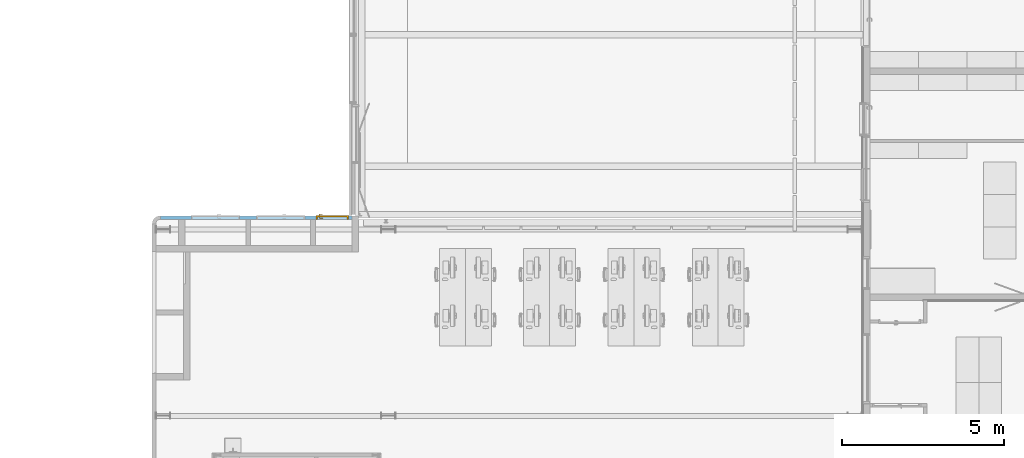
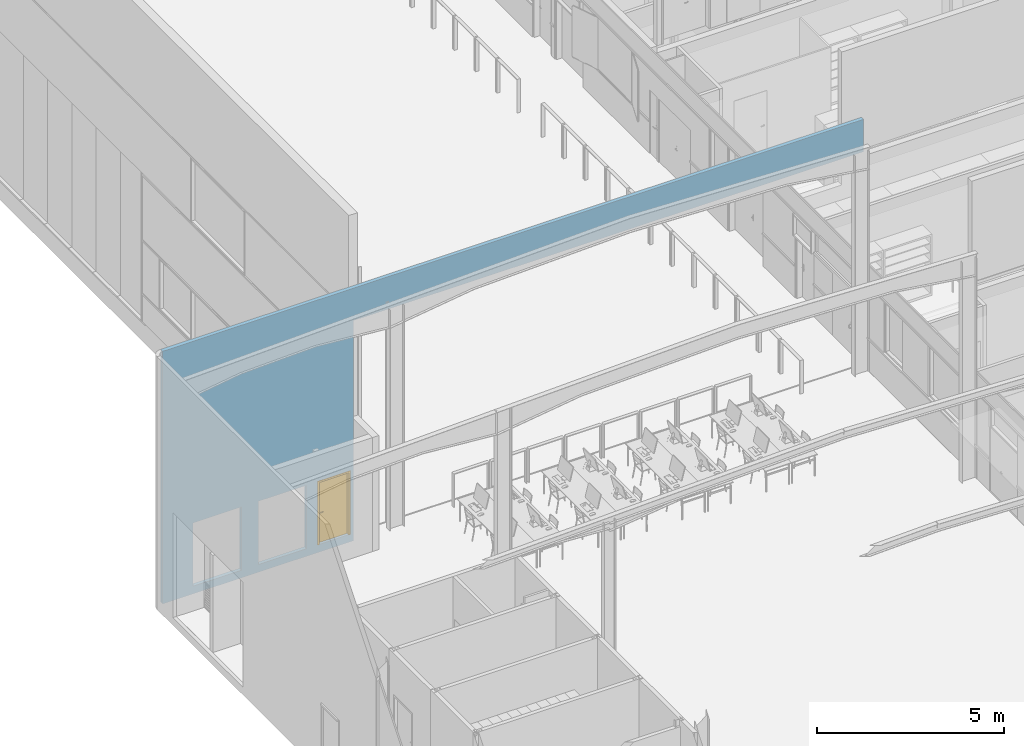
# One storey, part 73 of 137: 1 door, 3 openings, plus 1 element that does not belong to this part.
"""IFC2X3 building model written with IfcOpenShell, lengths in centimetres."""

from ifc_helpers import new_model, entity, si_unit, converted_unit, derived_unit, direction, frame, frame_2d, origin, place, context, subcontext, project, spatial, rectangle, extrude, faceted_brep, source, transform, mapped, material, material_list, type_object, type_shapes, element, fill, save


model = new_model("IFC2X3")

# Units and contexts
model_context = context("Model", 3, precision=0.001, world=origin(), true_north=direction((6.12303176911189e-17, 1.0)))
body_context = subcontext(model_context, "Body", "Model", "MODEL_VIEW")
ifc_project = project(units=[si_unit("LENGTHUNIT", "METRE", prefix="CENTI"), si_unit("AREAUNIT", "SQUARE_METRE"), si_unit("VOLUMEUNIT", "CUBIC_METRE"), converted_unit("PLANEANGLEUNIT", "DEGREE", entity("IfcRatioMeasure", 0.0174532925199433), si_unit("PLANEANGLEUNIT", "RADIAN"), dimensions=[0, 0, 0, 0, 0, 0, 0]), si_unit("MASSUNIT", "GRAM", prefix="KILO"), si_unit("TIMEUNIT", "SECOND"), si_unit("FREQUENCYUNIT", "HERTZ"), si_unit("THERMODYNAMICTEMPERATUREUNIT", "DEGREE_CELSIUS"), derived_unit("THERMALTRANSMITTANCEUNIT", [(si_unit("MASSUNIT", "GRAM", prefix="KILO"), 1), (si_unit("THERMODYNAMICTEMPERATUREUNIT", "KELVIN"), -1), (si_unit("TIMEUNIT", "SECOND"), -3)]), derived_unit("VOLUMETRICFLOWRATEUNIT", [(si_unit("LENGTHUNIT", "METRE"), 3), (si_unit("TIMEUNIT", "SECOND"), -1)]), si_unit("ELECTRICCURRENTUNIT", "AMPERE"), si_unit("ELECTRICVOLTAGEUNIT", "VOLT"), si_unit("POWERUNIT", "WATT"), si_unit("FORCEUNIT", "NEWTON", prefix="KILO"), si_unit("ILLUMINANCEUNIT", "LUX"), si_unit("LUMINOUSFLUXUNIT", "LUMEN"), si_unit("LUMINOUSINTENSITYUNIT", "CANDELA"), derived_unit("USERDEFINED", [(si_unit("MASSUNIT", "GRAM", prefix="KILO"), -1), (si_unit("LENGTHUNIT", "METRE"), -2), (si_unit("TIMEUNIT", "SECOND"), 3), (si_unit("LUMINOUSFLUXUNIT", "LUMEN"), 1)]), derived_unit("LINEARVELOCITYUNIT", [(si_unit("LENGTHUNIT", "METRE"), 1), (si_unit("TIMEUNIT", "SECOND"), -1)]), si_unit("PRESSUREUNIT", "PASCAL"), derived_unit("USERDEFINED", [(si_unit("LENGTHUNIT", "METRE"), -2), (si_unit("MASSUNIT", "GRAM", prefix="KILO"), 1), (si_unit("TIMEUNIT", "SECOND"), -2)])], contexts=[model_context])

# Site, building, storey
site_placement = place(None, frame((8.62739174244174, -249.285249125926, 0.0)))
site = spatial("IfcSite", under=ifc_project, at=site_placement, Name="Default", CompositionType="ELEMENT")
building_placement = place(site_placement, origin())
building = spatial("IfcBuilding", under=site, at=building_placement, CompositionType="ELEMENT")
storey_placement = place(building_placement, origin())
storey = spatial("IfcBuildingStorey", under=building, at=storey_placement, Name="RDC", CompositionType="ELEMENT", Elevation=-8.82465566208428e-11)

# Wall, openings, door
ifc_material_1 = material(Name="Tôle/Doublage")
ifc_material_2 = material(Name="Laine minérale")
ifc_material_list_1 = material_list([ifc_material_1, ifc_material_2, ifc_material_1])
wall_type = type_object("IfcWallType", Name="Mur de base:MET 4 + ISO 6 + MET 1", PredefinedType="NOTDEFINED")
wall_placement = place(storey_placement, frame((865.72426816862, 3548.48060251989, -25.0)))
wall = element("IfcWall", 1, at=wall_placement, inside=storey, type_object=wall_type, material=ifc_material_list_1, Name="Mur de base:MET 4 + ISO 6 + MET 1", ObjectType="Mur de base:MET 4 + ISO 6 + MET 1", context=body_context, shape_type="Brep", body=[
    faceted_brep([(0.0, -5.50000000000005, 0.0), (591.180559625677, -5.50000000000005, 0.0), (591.180559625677, -5.50000000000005, 720.0), (2168.18055964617, -5.50000000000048, 720.0), (2168.18055964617, -5.50000000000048, 826.0), (0.0, -5.50000000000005, 826.0), (243.680559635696, -5.50000000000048, 25.0), (94.6805596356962, -5.50000000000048, 25.0), (94.6805596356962, -5.50000000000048, 232.0), (243.680559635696, -5.50000000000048, 232.0), (445.180559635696, -5.50000000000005, 25.0), (296.180559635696, -5.50000000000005, 25.0), (296.180559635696, -5.50000000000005, 232.0), (445.180559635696, -5.50000000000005, 232.0), (580.180559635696, -5.50000000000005, 25.0), (480.180559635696, -5.50000000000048, 25.0), (480.180559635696, -5.50000000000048, 232.499999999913), (580.180559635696, -5.50000000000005, 232.499999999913), (0.180171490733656, 5.50000000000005, 0.0), (0.180171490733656, 5.50000000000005, 826.0), (2168.1805596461, 5.49999999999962, 826.0), (2168.1805596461, 5.49999999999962, 720.0), (591.180559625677, 5.50000000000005, 720.0), (591.180559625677, 5.50000000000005, 0.0), (243.680559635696, 5.49999999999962, 25.0), (243.680559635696, 5.49999999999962, 232.0), (94.6805596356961, 5.49999999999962, 232.0), (94.6805596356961, 5.49999999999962, 25.0), (445.180559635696, 5.50000000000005, 25.0), (445.180559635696, 5.50000000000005, 232.0), (296.180559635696, 5.50000000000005, 232.0), (296.180559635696, 5.50000000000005, 25.0), (580.180559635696, 5.50000000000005, 25.0), (580.180559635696, 5.50000000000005, 232.499999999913), (480.180559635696, 5.49999999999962, 232.499999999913), (480.180559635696, 5.49999999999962, 25.0)], [[[0, 1, 2, 3, 4, 5], [6, 7, 8, 9], [10, 11, 12, 13], [14, 15, 16, 17]], [[18, 19, 20, 21, 22, 23], [24, 25, 26, 27], [28, 29, 30, 31], [32, 33, 34, 35]], [[1, 0, 18, 23]], [[2, 1, 23, 22]], [[5, 4, 20, 19]], [[3, 2, 22, 21]], [[4, 3, 21, 20]], [[0, 5, 19, 18]], [[25, 24, 6, 9]], [[26, 25, 9, 8]], [[27, 26, 8, 7]], [[24, 27, 7, 6]], [[29, 28, 10, 13]], [[30, 29, 13, 12]], [[31, 30, 12, 11]], [[28, 31, 11, 10]], [[33, 32, 14, 17]], [[34, 33, 17, 16]], [[35, 34, 16, 15]], [[32, 35, 15, 14]]]),
])
opening_1_placement = place(wall_placement, frame((94.6805596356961, -5.50000000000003, 25.0)))
element("IfcOpeningElement", 2, at=opening_1_placement, cuts=wall, Name="Double(R)_bois_Existant_mu:143 x 204 cm:1", ObjectType="Opening", context=body_context, shape_type="SweptSolid", body=[
    extrude(rectangle(XDim=206.999999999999, YDim=149.0, at=frame_2d((103.499999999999, 74.4999999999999), x_axis=(1.0, 0.0))), frame((0.0, 0.0, 0.0), z_axis=(0.0, 1.0, 0.0), x_axis=(0.0, 0.0, 1.0)), (0.0, 0.0, 1.0), 11.0),
])
opening_2_placement = place(wall_placement, frame((296.180559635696, -5.50000000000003, 25.0)))
element("IfcOpeningElement", 3, at=opening_2_placement, cuts=wall, Name="Double(R)_bois_Existant_mu:143 x 204 cm:1", ObjectType="Opening", context=body_context, shape_type="SweptSolid", body=[
    extrude(rectangle(XDim=206.999999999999, YDim=149.0, at=frame_2d((103.499999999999, 74.4999999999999), x_axis=(1.0, 0.0))), frame((0.0, 0.0, 0.0), z_axis=(0.0, 1.0, 0.0), x_axis=(0.0, 0.0, 1.0)), (0.0, 0.0, 1.0), 11.0),
])
opening_3_placement = place(wall_placement, frame((480.180559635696, -5.49999999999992, 25.0)))
opening_3 = element("IfcOpeningElement", 4, at=opening_3_placement, cuts=wall, Name="Simple(R)_bois_mu:93 x 204 cm:1", ObjectType="Opening", context=body_context, shape_type="SweptSolid", body=[
    extrude(rectangle(XDim=207.499999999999, YDim=99.9999999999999, at=frame_2d((103.749999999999, 50.0), x_axis=(1.0, 0.0))), frame((0.0, 0.0, 0.0), z_axis=(0.0, 1.0, 0.0), x_axis=(0.0, 0.0, 1.0)), (0.0, 0.0, 1.0), 11.0),
])
ifc_material_3 = material(Name="Porte - Poignée")
ifc_material_4 = material(Name="Porte - Cadre")
ifc_material_5 = material(Name="Porte - Panneau")
ifc_material_list_2 = material_list([ifc_material_3, ifc_material_4, ifc_material_5])
ifc_material_list_3 = material_list([ifc_material_3, ifc_material_4, ifc_material_5])
door_style = type_object("IfcDoorStyle", Name="93 x 204 cm", ConstructionType="NOTDEFINED", OperationType="SINGLE_SWING_LEFT", ParameterTakesPrecedence=False, Sizeable=False, material=ifc_material_list_3)
shared_shape = source(origin(), body_context, "Body", "Brep", [
    faceted_brep([(92.2025298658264, 3.69999999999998, 100.778044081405), (91.7974701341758, 3.69999999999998, 100.778044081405), (91.3999999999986, 3.69999999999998, 100.699999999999), (91.4000000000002, 3.69999999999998, 99.3000000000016), (91.7974701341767, 3.69999999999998, 99.2219559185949), (92.2025298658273, 3.69999999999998, 99.2219559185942), (92.6000000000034, 3.69999999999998, 99.2999999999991), (92.600000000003, 3.69999999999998, 100.699999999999), (91.3999999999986, 5.94852045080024, 100.699999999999), (91.3999999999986, 5.94852045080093, 99.3000000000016), (91.7974701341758, 6.11315797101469, 100.778044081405), (92.2025298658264, 6.2809392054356, 100.778044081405), (90.5838906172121, 7.89957845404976, 100.778044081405), (90.4161093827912, 7.49451872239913, 100.778044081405), (82.0793122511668, 7.49451872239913, 100.778044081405), (81.911531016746, 7.89957845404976, 100.778044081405), (81.1451046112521, 7.13315204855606, 100.778044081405), (81.4315250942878, 6.84673156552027, 100.778044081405), (92.600000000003, 6.44557672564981, 100.699999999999), (92.6000000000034, 6.44557672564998, 99.2999999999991), (92.2025298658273, 6.28093920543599, 99.2219559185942), (91.7974701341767, 6.11315797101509, 99.2219559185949), (90.4161093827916, 7.49451872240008, 99.2219559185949), (90.5838906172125, 7.8995784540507, 99.2219559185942), (81.9115310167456, 7.8995784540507, 99.2219559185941), (82.0793122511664, 7.49451872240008, 99.2219559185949), (81.4315250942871, 6.84673156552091, 99.2219559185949), (81.1451046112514, 7.13315204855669, 99.2219559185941), (90.2514718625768, 7.09704858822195, 100.699999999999), (90.2514718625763, 7.09704858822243, 99.3000000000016), (90.7485281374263, 8.29704858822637, 100.699999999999), (90.7485281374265, 8.29704858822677, 99.2999999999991), (86.247710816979, 7.09704858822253, 100.699999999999), (82.2439497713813, 7.09704858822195, 100.699999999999), (82.2439497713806, 7.09704858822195, 99.3000000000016), (86.247710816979, 7.09704858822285, 99.3000000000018), (86.2477108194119, 7.71249275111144, 100.787811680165), (85.7399422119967, 8.29704858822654, 100.699999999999), (81.7468934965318, 8.29704858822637, 100.699999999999), (86.7554791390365, 8.29704858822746, 99.2999999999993), (81.7468934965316, 8.29704858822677, 99.2999999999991), (86.2477107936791, 7.71249274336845, 99.2121883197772), (80.8640507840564, 7.41420587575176, 100.699999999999), (80.8640507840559, 7.41420587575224, 99.2999999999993), (81.7125789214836, 6.5656777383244, 99.3000000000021), (81.7125789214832, 6.56567773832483, 100.699999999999)], [[[0, 1, 2, 3, 4, 5, 6, 7]], [[8, 9, 3, 2]], [[1, 10, 8, 2]], [[1, 0, 11, 12, 13, 10]], [[14, 15, 16, 17]], [[7, 18, 11, 0]], [[18, 7, 6, 19]], [[6, 5, 20, 19]], [[5, 4, 21, 22, 23, 20]], [[24, 25, 26, 27]], [[4, 3, 9, 21]], [[28, 29, 9, 8]], [[8, 10, 13, 28]], [[18, 30, 12, 11]], [[31, 30, 18, 19]], [[19, 20, 23, 31]], [[21, 9, 29, 22]], [[29, 28, 32, 33, 34, 35]], [[36, 32, 13]], [[37, 38, 15]], [[37, 12, 30]], [[36, 12, 37]], [[14, 32, 36]], [[36, 15, 14]], [[28, 13, 32]], [[32, 14, 33]], [[12, 36, 13]], [[15, 36, 37]], [[30, 31, 39, 40, 38, 37]], [[23, 41, 39]], [[24, 39, 41]], [[39, 31, 23]], [[39, 24, 40]], [[22, 35, 41]], [[41, 23, 22]], [[41, 35, 25]], [[35, 22, 29]], [[34, 25, 35]], [[24, 41, 25]], [[17, 16, 42, 43, 27, 26, 44, 45]], [[45, 44, 34, 33]], [[33, 14, 17, 45]], [[15, 38, 42, 16]], [[43, 42, 38, 40]], [[24, 27, 43, 40]], [[34, 44, 26, 25]]]),
    faceted_brep([(91.7974701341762, -1.30000000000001, 100.778044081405), (92.2025298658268, -1.30000000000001, 100.778044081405), (92.6000000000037, -1.30000000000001, 100.699999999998), (92.6000000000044, -1.30000000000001, 99.2999999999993), (92.2025298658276, -1.30000000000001, 99.2219559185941), (91.797470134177, -1.30000000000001, 99.2219559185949), (91.3999999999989, -1.30000000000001, 99.3000000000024), (91.3999999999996, -1.30000000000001, 100.699999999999), (92.2025298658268, -3.90045754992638, 100.778044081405), (92.6000000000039, -4.06509507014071, 100.699999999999), (91.7974701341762, -3.73267631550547, 100.778044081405), (90.4298602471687, -5.10028620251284, 100.778044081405), (90.5976414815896, -5.50534593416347, 100.778044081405), (81.9142453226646, -5.50534593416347, 100.778044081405), (82.0820265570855, -5.10028620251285, 100.778044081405), (81.4342394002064, -4.4524990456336, 100.778044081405), (81.1478189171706, -4.73891952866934, 100.778044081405), (91.3999999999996, -3.56803879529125, 100.699999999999), (91.3999999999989, -3.56803879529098, 99.3000000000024), (91.797470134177, -3.7326763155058, 99.2219559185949), (92.2025298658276, -3.9004575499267, 99.2219559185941), (90.5976414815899, -5.50534593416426, 99.2219559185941), (90.429860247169, -5.10028620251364, 99.2219559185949), (82.0820265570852, -5.10028620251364, 99.2219559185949), (81.9142453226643, -5.50534593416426, 99.2219559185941), (81.14781891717, -4.73891952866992, 99.2219559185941), (81.4342394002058, -4.45249904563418, 99.2219559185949), (92.6000000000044, -4.06509507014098, 99.2999999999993), (90.762279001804, -5.90281606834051, 100.699999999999), (90.2652227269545, -4.70281606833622, 100.699999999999), (90.2652227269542, -4.70281606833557, 99.3000000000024), (90.7622790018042, -5.90281606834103, 99.2999999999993), (86.2559433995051, -5.31828027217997, 100.787811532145), (86.769230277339, -5.90281606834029, 100.699999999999), (81.7496078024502, -5.90281606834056, 100.699999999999), (86.255943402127, -4.70281606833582, 100.699999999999), (82.2466640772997, -4.70281606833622, 100.699999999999), (86.2559436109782, -4.70281606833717, 99.3000000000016), (82.2466640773, -4.70281606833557, 99.3000000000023), (86.2559434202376, -5.31828027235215, 99.2121884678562), (85.7426572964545, -5.90281606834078, 99.2999999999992), (81.74960780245, -5.90281606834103, 99.2999999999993), (81.7152932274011, -4.17144521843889, 99.3000000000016), (80.8667650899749, -5.01997335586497, 99.2999999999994), (80.8667650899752, -5.01997335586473, 100.699999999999), (81.7152932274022, -4.17144521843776, 100.699999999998)], [[[0, 1, 2, 3, 4, 5, 6, 7]], [[2, 1, 8, 9]], [[1, 0, 10, 11, 12, 8]], [[13, 14, 15, 16]], [[0, 7, 17, 10]], [[18, 17, 7, 6]], [[5, 19, 18, 6]], [[5, 4, 20, 21, 22, 19]], [[23, 24, 25, 26]], [[3, 27, 20, 4]], [[9, 27, 3, 2]], [[9, 8, 12, 28]], [[10, 17, 29, 11]], [[30, 29, 17, 18]], [[18, 19, 22, 30]], [[20, 27, 31, 21]], [[28, 31, 27, 9]], [[12, 32, 33]], [[13, 33, 32]], [[33, 28, 12]], [[33, 13, 34]], [[11, 35, 32]], [[32, 12, 11]], [[32, 35, 14]], [[35, 11, 29]], [[36, 14, 35]], [[13, 32, 14]], [[29, 30, 37, 38, 36, 35]], [[39, 37, 22]], [[40, 41, 24]], [[40, 21, 31]], [[39, 21, 40]], [[23, 37, 39]], [[39, 24, 23]], [[30, 22, 37]], [[37, 23, 38]], [[21, 39, 22]], [[24, 39, 40]], [[31, 28, 33, 34, 41, 40]], [[42, 26, 25, 43, 44, 16, 15, 45]], [[13, 16, 44, 34]], [[36, 45, 15, 14]], [[42, 45, 36, 38]], [[38, 23, 26, 42]], [[24, 41, 43, 25]], [[44, 43, 41, 34]]]),
    faceted_brep([(92.0, 3.19999999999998, 86.4641016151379), (93.0352761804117, 3.19999999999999, 86.6003983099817), (94.0, 3.19999999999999, 87.0), (94.0, 3.19999999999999, 108.0), (93.0352761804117, 3.19999999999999, 108.399601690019), (92.0, 3.19999999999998, 108.535898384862), (90.9647238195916, 3.19999999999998, 108.399601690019), (90.0, 3.19999999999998, 108.0), (90.0, 3.19999999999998, 87.0), (90.9647238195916, 3.19999999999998, 86.6003983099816), (92.0, 3.69999999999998, 108.535898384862), (93.0352761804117, 3.69999999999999, 108.399601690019), (94.0, 3.69999999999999, 108.0), (94.0, 3.69999999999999, 87.0), (93.0352761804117, 3.69999999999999, 86.6003983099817), (92.0, 3.69999999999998, 86.4641016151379), (90.9647238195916, 3.69999999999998, 86.6003983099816), (90.0, 3.69999999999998, 87.0), (90.0, 3.69999999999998, 108.0), (90.9647238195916, 3.69999999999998, 108.399601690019)], [[[0, 1, 2, 3, 4, 5, 6, 7, 8, 9]], [[10, 11, 12, 13, 14, 15, 16, 17, 18, 19]], [[6, 19, 18, 7]], [[5, 10, 19, 6]], [[4, 11, 10, 5]], [[4, 3, 12, 11]], [[12, 3, 2, 13]], [[1, 14, 13, 2]], [[0, 15, 14, 1]], [[9, 16, 15, 0]], [[9, 8, 17, 16]], [[17, 8, 7, 18]]]),
    faceted_brep([(92.0, -1.30000000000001, 86.4641016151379), (93.0352761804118, -1.30000000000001, 86.6003983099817), (94.0, -1.30000000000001, 87.0), (94.0, -1.30000000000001, 108.0), (93.0352761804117, -1.30000000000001, 108.399601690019), (92.0, -1.30000000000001, 108.535898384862), (90.9647238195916, -1.30000000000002, 108.399601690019), (90.0, -1.30000000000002, 108.0), (90.0, -1.30000000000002, 87.0), (90.9647238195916, -1.30000000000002, 86.6003983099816), (94.0, -0.800000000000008, 108.0), (94.0, -0.800000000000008, 87.0), (93.0352761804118, -0.800000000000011, 86.6003983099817), (92.0, -0.800000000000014, 86.4641016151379), (90.9647238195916, -0.800000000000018, 86.6003983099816), (90.0, -0.80000000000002, 87.0), (90.0, -0.80000000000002, 108.0), (90.9647238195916, -0.800000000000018, 108.399601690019), (92.0, -0.800000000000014, 108.535898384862), (93.0352761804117, -0.800000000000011, 108.399601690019)], [[[0, 1, 2, 3, 4, 5, 6, 7, 8, 9]], [[10, 11, 12, 13, 14, 15, 16, 17, 18, 19]], [[1, 12, 11, 2]], [[0, 13, 12, 1]], [[9, 14, 13, 0]], [[9, 8, 15, 14]], [[15, 8, 7, 16]], [[6, 17, 16, 7]], [[5, 18, 17, 6]], [[4, 19, 18, 5]], [[4, 3, 10, 19]], [[10, 3, 2, 11]]]),
    faceted_brep([(101.0, 0.0, 0.0), (102.0, 0.0, 0.0), (102.0, -0.799999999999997, 0.0), (97.5000000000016, -0.799999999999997, 0.0), (97.5000000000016, 3.2, 0.0), (96.5000000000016, 3.2, 0.0), (96.5000000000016, 11.8000000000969, 0.0), (102.0, 11.8000000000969, 0.0), (102.0, 11.0, 0.0), (101.0, 11.0, 0.0), (101.0, 11.0, 207.499999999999), (101.0, 0.0, 207.499999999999), (102.0, 11.0, 208.499999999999), (0.0, 11.0, 208.499999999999), (0.0, 11.0, 0.0), (1.0, 11.0, 0.0), (1.0, 11.0, 207.499999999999), (102.0, 11.8000000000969, 208.499999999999), (96.5000000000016, 11.8000000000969, 203.0), (5.50000000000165, 11.8000000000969, 203.0), (5.50000000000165, 11.8000000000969, 0.0), (0.0, 11.8000000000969, 0.0), (0.0, 11.8000000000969, 208.499999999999), (96.5000000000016, 3.2, 203.0), (97.5000000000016, 3.2, 204.0), (4.50000000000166, 3.2, 204.0), (4.50000000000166, 3.2, 0.0), (5.50000000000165, 3.2, 0.0), (5.50000000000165, 3.2, 203.0), (97.5000000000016, -0.799999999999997, 204.0), (102.0, -0.799999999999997, 208.499999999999), (0.0, -0.799999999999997, 208.499999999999), (0.0, -0.799999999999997, 0.0), (4.50000000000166, -0.799999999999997, 0.0), (4.50000000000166, -0.799999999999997, 204.0), (102.0, 0.0, 208.499999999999), (1.0, 0.0, 207.499999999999), (1.0, 0.0, 0.0), (0.0, 0.0, 0.0), (0.0, 0.0, 208.499999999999)], [[[0, 1, 2, 3, 4, 5, 6, 7, 8, 9]], [[9, 10, 11, 0]], [[8, 12, 13, 14, 15, 16, 10, 9]], [[7, 17, 12, 8]], [[6, 18, 19, 20, 21, 22, 17, 7]], [[5, 23, 18, 6]], [[4, 24, 25, 26, 27, 28, 23, 5]], [[3, 29, 24, 4]], [[2, 30, 31, 32, 33, 34, 29, 3]], [[1, 35, 30, 2]], [[0, 11, 36, 37, 38, 39, 35, 1]], [[16, 15, 37, 36]], [[37, 15, 14, 21, 20, 27, 26, 33, 32, 38]], [[22, 21, 14, 13]], [[28, 27, 20, 19]], [[34, 33, 26, 25]], [[39, 38, 32, 31]], [[10, 16, 36, 11]], [[17, 22, 13, 12]], [[23, 28, 19, 18]], [[29, 34, 25, 24]], [[35, 39, 31, 30]]]),
    faceted_brep([(97.5000000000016, -0.799999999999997, 204.0), (4.50000000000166, -0.799999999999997, 204.0), (4.50000000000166, -0.799999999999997, 0.0), (97.5000000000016, -0.799999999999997, 0.0), (97.5000000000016, 3.2, 204.0), (97.5000000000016, 3.2, 0.0), (4.50000000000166, 3.2, 0.0), (4.50000000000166, 3.2, 204.0)], [[[0, 1, 2, 3]], [[4, 5, 6, 7]], [[3, 5, 4, 0]], [[2, 6, 5, 3]], [[1, 7, 6, 2]], [[0, 4, 7, 1]]]),
])
type_shapes(door_style, [shared_shape])
door_placement = place(opening_3_placement, frame((101.0, 11.0, 0.0), z_axis=(0.0, 0.0, 1.0), x_axis=(-1.0, 0.0, 0.0)))
door = element("IfcDoor", 5, at=door_placement, inside=storey, type_object=door_style, material=ifc_material_list_2, Name="Simple(R)_bois_mu:93 x 204 cm", ObjectType="93 x 204 cm", OverallHeight=207.499999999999, OverallWidth=100.0, context=body_context, shape_type="MappedRepresentation", body=[
    mapped(shared_shape, transform((0.0, 0.0, 0.0), scale=1.0)),
])
fill(opening_3, door)

save(model, "model.ifc")
